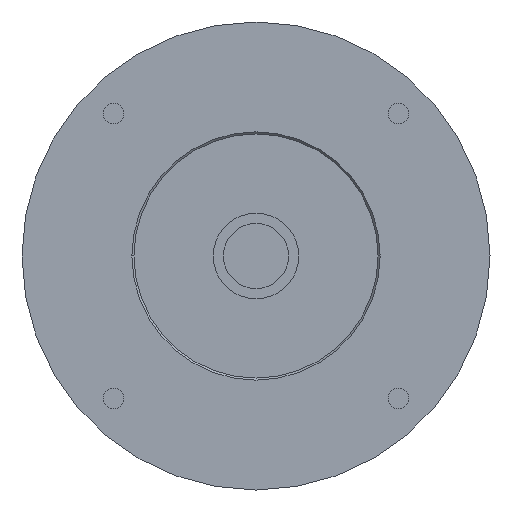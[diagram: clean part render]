
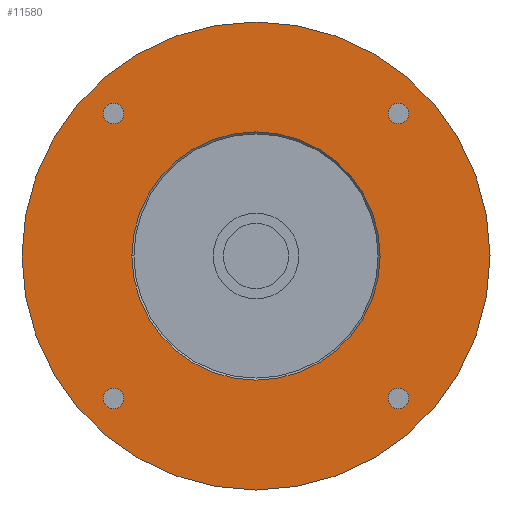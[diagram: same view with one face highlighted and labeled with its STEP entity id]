
A CAD part, left-side view. The second image highlights one B-rep face of the part: STEP entity #11580.
In plain terms, the highlighted planar face has unit normal (-1, 0, 0) as drawn and (0, 0, -1) by its records, which use the part's own axes.
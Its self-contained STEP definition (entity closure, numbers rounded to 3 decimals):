
#8590=CARTESIAN_POINT('',(0.,-57.5,-47.4));
#8600=VERTEX_POINT('',#8590);
#8650=CARTESIAN_POINT('',(0.,0.,
-47.4));
#8660=DIRECTION('',(0.,0.,-1.));
#8670=DIRECTION('',(0.,-1.,0.));
#8680=AXIS2_PLACEMENT_3D('',#8650,#8660,#8670);
#8690=CIRCLE('',#8680,57.5);
#8700=CARTESIAN_POINT('',(0.,57.5,-47.4));
#8710=VERTEX_POINT('',#8700);
#8720=EDGE_CURVE('',#8600,#8710,#8690,.T.);
#10390=CARTESIAN_POINT('',(35.002,-37.502,-47.4));
#10400=VERTEX_POINT('',#10390);
#10430=CARTESIAN_POINT('',(35.002,-35.002,-47.4));
#10440=DIRECTION('',(0.,0.,-1.));
#10450=DIRECTION('',(1.,0.,0.));
#10460=AXIS2_PLACEMENT_3D('',#10430,#10440,#10450);
#10470=CIRCLE('',#10460,2.5);
#10480=CARTESIAN_POINT('',(37.502,-35.002,-47.4));
#10490=VERTEX_POINT('',#10480);
#10500=EDGE_CURVE('',#10490,#10400,#10470,.T.);
#10520=CARTESIAN_POINT('',(35.002,-32.502,-47.4));
#10530=VERTEX_POINT('',#10520);
#10540=EDGE_CURVE('',#10530,#10490,#10470,.T.);
#10660=CARTESIAN_POINT('',(0.,0.,
-47.4));
#10670=DIRECTION('',(0.,0.,-1.));
#10680=DIRECTION('',(0.,1.,0.));
#10690=AXIS2_PLACEMENT_3D('',#10660,#10670,#10680);
#10700=PLANE('',#10690);
#10710=CARTESIAN_POINT('',(0.,0.,
-47.4));
#10720=DIRECTION('',(0.,0.,-1.));
#10730=DIRECTION('',(0.,1.,0.));
#10740=AXIS2_PLACEMENT_3D('',#10710,#10720,#10730);
#10750=CIRCLE('',#10740,30.5);
#10760=CARTESIAN_POINT('',(0.,30.5,-47.4));
#10770=VERTEX_POINT('',#10760);
#10780=CARTESIAN_POINT('',(30.5,0.,-47.4));
#10790=VERTEX_POINT('',#10780);
#10800=EDGE_CURVE('',#10770,#10790,#10750,.T.);
#10810=ORIENTED_EDGE('',*,*,#10800,.F.);
#10820=CARTESIAN_POINT('',(-30.5,0.,-47.4));
#10830=VERTEX_POINT('',#10820);
#10840=EDGE_CURVE('',#10790,#10830,#10750,.T.);
#10850=ORIENTED_EDGE('',*,*,#10840,.F.);
#10860=EDGE_CURVE('',#10830,#10770,#10750,.T.);
#10870=ORIENTED_EDGE('',*,*,#10860,.F.);
#10880=EDGE_LOOP('',(#10870,#10850,#10810));
#10890=FACE_BOUND('',#10880,.T.);
#10900=CARTESIAN_POINT('',(-35.002,-35.002,-47.4));
#10910=DIRECTION('',(0.,0.,-1.));
#10920=DIRECTION('',(1.,0.,0.));
#10930=AXIS2_PLACEMENT_3D('',#10900,#10910,#10920);
#10940=CIRCLE('',#10930,2.5);
#10950=CARTESIAN_POINT('',(-32.502,-35.002,-47.4));
#10960=VERTEX_POINT('',#10950);
#10970=CARTESIAN_POINT('',(-35.002,-37.502,-47.4));
#10980=VERTEX_POINT('',#10970);
#10990=EDGE_CURVE('',#10960,#10980,#10940,.T.);
#11000=ORIENTED_EDGE('',*,*,#10990,.F.);
#11010=CARTESIAN_POINT('',(-35.002,-32.502,-47.4));
#11020=VERTEX_POINT('',#11010);
#11030=EDGE_CURVE('',#10980,#11020,#10940,.T.);
#11040=ORIENTED_EDGE('',*,*,#11030,.F.);
#11050=EDGE_CURVE('',#11020,#10960,#10940,.T.);
#11060=ORIENTED_EDGE('',*,*,#11050,.F.);
#11070=EDGE_LOOP('',(#11060,#11040,#11000));
#11080=FACE_BOUND('',#11070,.T.);
#11090=CARTESIAN_POINT('',(-35.002,35.002,-47.4));
#11100=DIRECTION('',(0.,0.,-1.));
#11110=DIRECTION('',(1.,0.,0.));
#11120=AXIS2_PLACEMENT_3D('',#11090,#11100,#11110);
#11130=CIRCLE('',#11120,2.5);
#11140=CARTESIAN_POINT('',(-32.502,35.002,-47.4));
#11150=VERTEX_POINT('',#11140);
#11160=CARTESIAN_POINT('',(-35.002,32.502,-47.4));
#11170=VERTEX_POINT('',#11160);
#11180=EDGE_CURVE('',#11150,#11170,#11130,.T.);
#11190=ORIENTED_EDGE('',*,*,#11180,.F.);
#11200=CARTESIAN_POINT('',(-35.002,37.502,-47.4));
#11210=VERTEX_POINT('',#11200);
#11220=EDGE_CURVE('',#11170,#11210,#11130,.T.);
#11230=ORIENTED_EDGE('',*,*,#11220,.F.);
#11240=EDGE_CURVE('',#11210,#11150,#11130,.T.);
#11250=ORIENTED_EDGE('',*,*,#11240,.F.);
#11260=EDGE_LOOP('',(#11250,#11230,#11190));
#11270=FACE_BOUND('',#11260,.T.);
#11280=CARTESIAN_POINT('',(35.002,35.002,-47.4));
#11290=DIRECTION('',(0.,0.,-1.));
#11300=DIRECTION('',(1.,0.,0.));
#11310=AXIS2_PLACEMENT_3D('',#11280,#11290,#11300);
#11320=CIRCLE('',#11310,2.5);
#11330=CARTESIAN_POINT('',(37.502,35.002,-47.4));
#11340=VERTEX_POINT('',#11330);
#11350=CARTESIAN_POINT('',(35.002,32.502,-47.4));
#11360=VERTEX_POINT('',#11350);
#11370=EDGE_CURVE('',#11340,#11360,#11320,.T.);
#11380=ORIENTED_EDGE('',*,*,#11370,.F.);
#11390=CARTESIAN_POINT('',(35.002,37.502,-47.4));
#11400=VERTEX_POINT('',#11390);
#11410=EDGE_CURVE('',#11360,#11400,#11320,.T.);
#11420=ORIENTED_EDGE('',*,*,#11410,.F.);
#11430=EDGE_CURVE('',#11400,#11340,#11320,.T.);
#11440=ORIENTED_EDGE('',*,*,#11430,.F.);
#11450=EDGE_LOOP('',(#11440,#11420,#11380));
#11460=FACE_BOUND('',#11450,.T.);
#11470=ORIENTED_EDGE('',*,*,#10500,.F.);
#11480=EDGE_CURVE('',#10400,#10530,#10470,.T.);
#11490=ORIENTED_EDGE('',*,*,#11480,.F.);
#11500=ORIENTED_EDGE('',*,*,#10540,.F.);
#11510=EDGE_LOOP('',(#11500,#11490,#11470));
#11520=FACE_BOUND('',#11510,.T.);
#11530=ORIENTED_EDGE('',*,*,#8720,.T.);
#11540=EDGE_CURVE('',#8710,#8600,#8690,.T.);
#11550=ORIENTED_EDGE('',*,*,#11540,.T.);
#11560=EDGE_LOOP('',(#11550,#11530));
#11570=FACE_OUTER_BOUND('',#11560,.T.);
#11580=ADVANCED_FACE('',(#10890,#11080,#11270,#11460,#11520,#11570),
#10700,.T.);
